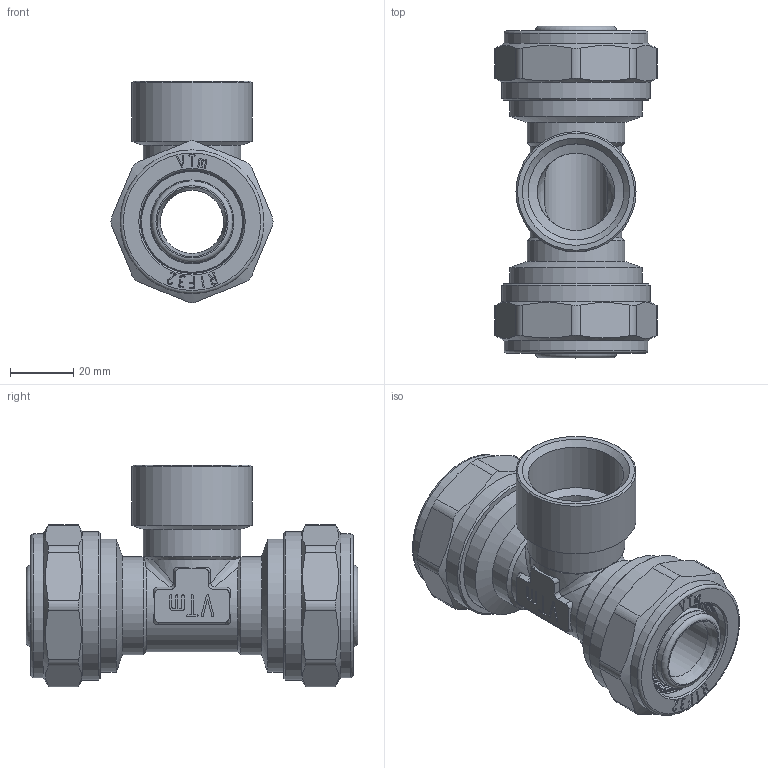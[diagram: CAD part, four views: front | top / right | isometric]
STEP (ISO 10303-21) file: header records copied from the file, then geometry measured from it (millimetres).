
FILE_DESCRIPTION(('STEP AP203'), '1');
FILE_NAME('VTm.332.N.320632', '', ('UNSPECIFIED'), ('UNSPECIFIED'), 'C3D Converter', 'C3D Toolkit', '');
FILE_SCHEMA(('CONFIG_CONTROL_DESIGN'));
Length unit declared in the file: millimetre
Products named in the file (1): ВР.302635.075.000 СБ
Bounding box: 51.3 x 105 x 70.15 mm (x, y, z)
Volume: 87227.9 mm3; surface area: 48095.4 mm2
Topology: 1 solids, 1 shells, 778 faces, 2138 edges, 1410 vertices
Faces by surface type: extrusion 336, plane 249, cylinder 96, torus 58, cone 33, bspline 4, sphere 2
Full cylindrical faces by diameter (mm): 20 x1, 22.8 x8, 24.5 x1, 25.8 x10, 26 x2, 30.292 x1, 31 x3, 32.1 x2, 32.2 x2, 32.7 x2, 38 x1, 40.376 x2, 42 x2, 45.5 x2, 47 x2
Entity records: 29332 total; most frequent: CARTESIAN_POINT 11600, ORIENTED_EDGE 4084, DIRECTION 2542, EDGE_CURVE 2042, VERTEX_POINT 1410, VECTOR 1238, B_SPLINE_CURVE_WITH_KNOTS 1201, EDGE_LOOP 926
